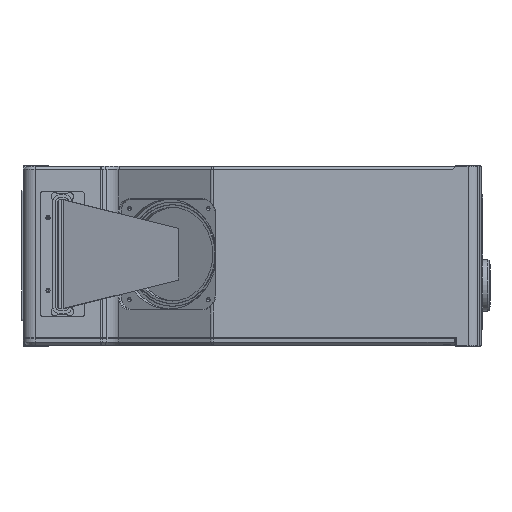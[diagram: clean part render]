
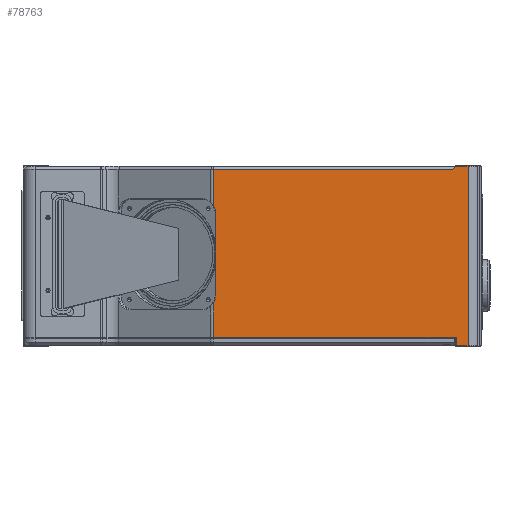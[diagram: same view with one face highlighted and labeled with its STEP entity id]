
A CAD part, front view. The second image highlights one B-rep face of the part: STEP entity #78763.
In plain terms, the highlighted planar face has unit normal (0, -1, 0).
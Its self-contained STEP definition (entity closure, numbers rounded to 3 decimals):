
#707 = B_SPLINE_CURVE_WITH_KNOTS ( 'NONE', 3,
 ( #18682, #59342, #122312, #102688, #19999, #72136, #41655, #39001, #121649, #100686 ),
 .UNSPECIFIED., .F., .F.,
 ( 4, 2, 2, 2, 4 ),
 ( 0., 0., 0.001, 0.001, 0.002 ),
 .UNSPECIFIED. ) ;
#1721 = CARTESIAN_POINT ( 'NONE',  ( 166.5, 0., -3.2 ) ) ;
#1924 = DIRECTION ( 'NONE',  ( -1., 0., 0. ) ) ;
#2480 = DIRECTION ( 'NONE',  ( 1., 0., 0. ) ) ;
#3258 = DIRECTION ( 'NONE',  ( 0., 1., 0. ) ) ;
#6227 = CARTESIAN_POINT ( 'NONE',  ( 73.486, 0., 14.134 ) ) ;
#6913 = CARTESIAN_POINT ( 'NONE',  ( 73.832, 0., 15.95 ) ) ;
#7016 = VERTEX_POINT ( 'NONE', #93382 ) ;
#11339 = VERTEX_POINT ( 'NONE', #31828 ) ;
#11402 = FACE_OUTER_BOUND ( 'NONE', #29216, .T. ) ;
#13882 = EDGE_CURVE ( 'NONE', #11339, #38463, #84375, .T. ) ;
#14028 = VECTOR ( 'NONE', #115580, 1000. ) ;
#15182 = LINE ( 'NONE', #17845, #45794 ) ;
#15211 = B_SPLINE_CURVE_WITH_KNOTS ( 'NONE', 3,
 ( #38237, #78882, #28761, #109414, #70073, #26743 ),
 .UNSPECIFIED., .F., .F.,
 ( 4, 2, 4 ),
 ( 0., 0.5, 1. ),
 .UNSPECIFIED. ) ;
#16073 = CARTESIAN_POINT ( 'NONE',  ( 78.077, 0., 64.6 ) ) ;
#16093 = DIRECTION ( 'NONE',  ( 0., 0., -1. ) ) ;
#16744 = ORIENTED_EDGE ( 'NONE', *, *, #67739, .T. ) ;
#17834 = EDGE_CURVE ( 'NONE', #88493, #51790, #101448, .T. ) ;
#17845 = CARTESIAN_POINT ( 'NONE',  ( 166.5, 0., -3.4 ) ) ;
#18682 = CARTESIAN_POINT ( 'NONE',  ( 166.5, 0., 65.8 ) ) ;
#19999 = CARTESIAN_POINT ( 'NONE',  ( 166.1, 0., 65.662 ) ) ;
#22189 = ORIENTED_EDGE ( 'NONE', *, *, #85404, .T. ) ;
#24068 = CARTESIAN_POINT ( 'NONE',  ( 73.013, 0., 0. ) ) ;
#24192 = VERTEX_POINT ( 'NONE', #1721 ) ;
#24231 = PLANE ( 'NONE',  #51651 ) ;
#25982 = ORIENTED_EDGE ( 'NONE', *, *, #63162, .T. ) ;
#26743 = CARTESIAN_POINT ( 'NONE',  ( 73.832, 0., 48.05 ) ) ;
#27162 = CARTESIAN_POINT ( 'NONE',  ( 170.857, 0., -3.2 ) ) ;
#27885 = CARTESIAN_POINT ( 'NONE',  ( 73.832, 0., 15.488 ) ) ;
#28259 = DIRECTION ( 'NONE',  ( -1., 0., 0. ) ) ;
#28761 = CARTESIAN_POINT ( 'NONE',  ( 73.486, 0., 49.866 ) ) ;
#29216 = EDGE_LOOP ( 'NONE', ( #25982, #16744, #112697, #64375, #78816, #67898, #49485, #31686, #78294, #66403, #65532, #22189 ) ) ;
#30828 = VECTOR ( 'NONE', #55762, 1000. ) ;
#31686 = ORIENTED_EDGE ( 'NONE', *, *, #100619, .T. ) ;
#31828 = CARTESIAN_POINT ( 'NONE',  ( 73.013, 0., 0. ) ) ;
#33573 = LINE ( 'NONE', #24068, #14028 ) ;
#34997 = VERTEX_POINT ( 'NONE', #27162 ) ;
#35749 = CARTESIAN_POINT ( 'NONE',  ( 170.857, 0., 65.8 ) ) ;
#36346 = VECTOR ( 'NONE', #2480, 1000. ) ;
#36749 = VERTEX_POINT ( 'NONE', #45873 ) ;
#38237 = CARTESIAN_POINT ( 'NONE',  ( 73.013, 0., 50.699 ) ) ;
#38463 = VERTEX_POINT ( 'NONE', #88890 ) ;
#39001 = CARTESIAN_POINT ( 'NONE',  ( 165.37, 0., 65.071 ) ) ;
#41358 = EDGE_CURVE ( 'NONE', #51790, #61581, #15211, .T. ) ;
#41655 = CARTESIAN_POINT ( 'NONE',  ( 165.757, 0., 65.407 ) ) ;
#41705 = DIRECTION ( 'NONE',  ( 1., 0., 0. ) ) ;
#42331 = EDGE_CURVE ( 'NONE', #24192, #34997, #118244, .T. ) ;
#45087 = B_SPLINE_CURVE_WITH_KNOTS ( 'NONE', 3,
 ( #6913, #27885, #99028, #6227, #120690, #47545 ),
 .UNSPECIFIED., .F., .F.,
 ( 4, 2, 4 ),
 ( 0., 0.5, 1. ),
 .UNSPECIFIED. ) ;
#45794 = VECTOR ( 'NONE', #66662, 1000. ) ;
#45873 = CARTESIAN_POINT ( 'NONE',  ( 73.013, 0., 13.301 ) ) ;
#47545 = CARTESIAN_POINT ( 'NONE',  ( 73.013, 0., 13.301 ) ) ;
#49485 = ORIENTED_EDGE ( 'NONE', *, *, #78377, .T. ) ;
#51651 = AXIS2_PLACEMENT_3D ( 'NONE', #52052, #3258, #1924 ) ;
#51790 = VERTEX_POINT ( 'NONE', #95611 ) ;
#52052 = CARTESIAN_POINT ( 'NONE',  ( 78.077, 0., 65.8 ) ) ;
#52657 = VERTEX_POINT ( 'NONE', #82752 ) ;
#53613 = LINE ( 'NONE', #35749, #121941 ) ;
#55110 = LINE ( 'NONE', #106626, #30828 ) ;
#55762 = DIRECTION ( 'NONE',  ( 0., 0., -1. ) ) ;
#59342 = CARTESIAN_POINT ( 'NONE',  ( 166.413, 0., 65.8 ) ) ;
#61581 = VERTEX_POINT ( 'NONE', #97872 ) ;
#63162 = EDGE_CURVE ( 'NONE', #131818, #117900, #109760, .T. ) ;
#64375 = ORIENTED_EDGE ( 'NONE', *, *, #17834, .T. ) ;
#65532 = ORIENTED_EDGE ( 'NONE', *, *, #42331, .T. ) ;
#66403 = ORIENTED_EDGE ( 'NONE', *, *, #72689, .T. ) ;
#66662 = DIRECTION ( 'NONE',  ( 0., 0., -1. ) ) ;
#67739 = EDGE_CURVE ( 'NONE', #117900, #7016, #707, .T. ) ;
#67898 = ORIENTED_EDGE ( 'NONE', *, *, #126182, .T. ) ;
#70073 = CARTESIAN_POINT ( 'NONE',  ( 73.832, 0., 48.513 ) ) ;
#70410 = CARTESIAN_POINT ( 'NONE',  ( 166.5, 0., 65.8 ) ) ;
#72136 = CARTESIAN_POINT ( 'NONE',  ( 165.888, 0., 65.517 ) ) ;
#72689 = EDGE_CURVE ( 'NONE', #38463, #24192, #15182, .T. ) ;
#74086 = CARTESIAN_POINT ( 'NONE',  ( 73.013, 0., 64.6 ) ) ;
#76663 = VECTOR ( 'NONE', #41705, 1000. ) ;
#77322 = VECTOR ( 'NONE', #16093, 1000. ) ;
#78294 = ORIENTED_EDGE ( 'NONE', *, *, #13882, .T. ) ;
#78377 = EDGE_CURVE ( 'NONE', #52657, #36749, #45087, .T. ) ;
#78763 = ADVANCED_FACE ( 'NONE', ( #11402 ), #24231, .F. ) ;
#78816 = ORIENTED_EDGE ( 'NONE', *, *, #41358, .T. ) ;
#78882 = CARTESIAN_POINT ( 'NONE',  ( 73.279, 0., 50.299 ) ) ;
#82752 = CARTESIAN_POINT ( 'NONE',  ( 73.832, 0., 15.95 ) ) ;
#84375 = LINE ( 'NONE', #103401, #76663 ) ;
#84558 = EDGE_CURVE ( 'NONE', #7016, #88493, #130543, .T. ) ;
#85404 = EDGE_CURVE ( 'NONE', #34997, #131818, #53613, .T. ) ;
#87249 = DIRECTION ( 'NONE',  ( 0., 0., 1. ) ) ;
#88493 = VERTEX_POINT ( 'NONE', #74086 ) ;
#88890 = CARTESIAN_POINT ( 'NONE',  ( 166.5, 0., 0. ) ) ;
#93382 = CARTESIAN_POINT ( 'NONE',  ( 164.875, 0., 64.6 ) ) ;
#95611 = CARTESIAN_POINT ( 'NONE',  ( 73.013, 0., 50.699 ) ) ;
#96544 = CARTESIAN_POINT ( 'NONE',  ( 166.5, 0., 65.8 ) ) ;
#97872 = CARTESIAN_POINT ( 'NONE',  ( 73.832, 0., 48.05 ) ) ;
#99028 = CARTESIAN_POINT ( 'NONE',  ( 73.761, 0., 15.024 ) ) ;
#99585 = DIRECTION ( 'NONE',  ( -1., 0., 0. ) ) ;
#100619 = EDGE_CURVE ( 'NONE', #36749, #11339, #33573, .T. ) ;
#100686 = CARTESIAN_POINT ( 'NONE',  ( 164.875, 0., 64.6 ) ) ;
#101448 = LINE ( 'NONE', #110953, #77322 ) ;
#102688 = CARTESIAN_POINT ( 'NONE',  ( 166.173, 0., 65.706 ) ) ;
#103401 = CARTESIAN_POINT ( 'NONE',  ( 78.077, 0., 0. ) ) ;
#104477 = VECTOR ( 'NONE', #28259, 1000. ) ;
#106626 = CARTESIAN_POINT ( 'NONE',  ( 73.832, 0., 15.95 ) ) ;
#109414 = CARTESIAN_POINT ( 'NONE',  ( 73.761, 0., 48.976 ) ) ;
#109760 = LINE ( 'NONE', #70410, #122504 ) ;
#110953 = CARTESIAN_POINT ( 'NONE',  ( 73.013, 0., 37.837 ) ) ;
#112697 = ORIENTED_EDGE ( 'NONE', *, *, #84558, .T. ) ;
#115580 = DIRECTION ( 'NONE',  ( 0., 0., -1. ) ) ;
#117900 = VERTEX_POINT ( 'NONE', #96544 ) ;
#118244 = LINE ( 'NONE', #127093, #36346 ) ;
#120690 = CARTESIAN_POINT ( 'NONE',  ( 73.28, 0., 13.702 ) ) ;
#121649 = CARTESIAN_POINT ( 'NONE',  ( 165.122, 0., 64.836 ) ) ;
#121941 = VECTOR ( 'NONE', #87249, 1000. ) ;
#122312 = CARTESIAN_POINT ( 'NONE',  ( 166.329, 0., 65.776 ) ) ;
#122504 = VECTOR ( 'NONE', #99585, 1000. ) ;
#126182 = EDGE_CURVE ( 'NONE', #61581, #52657, #55110, .T. ) ;
#127093 = CARTESIAN_POINT ( 'NONE',  ( 170.857, 0., -3.2 ) ) ;
#130543 = LINE ( 'NONE', #16073, #104477 ) ;
#131573 = CARTESIAN_POINT ( 'NONE',  ( 170.857, 0., 65.8 ) ) ;
#131818 = VERTEX_POINT ( 'NONE', #131573 ) ;
